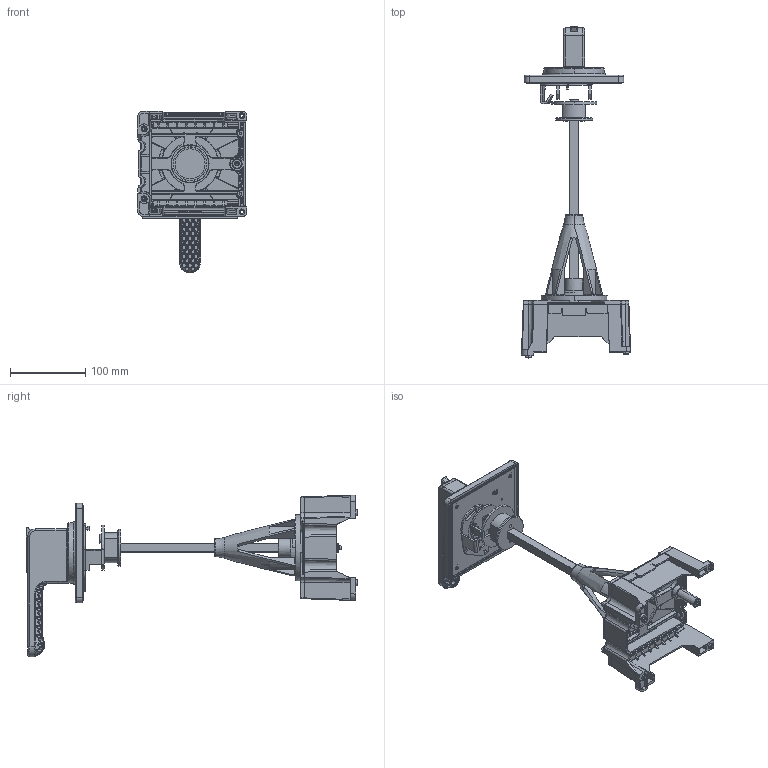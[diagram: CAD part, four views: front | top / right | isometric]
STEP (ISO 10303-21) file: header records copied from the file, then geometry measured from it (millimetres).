
FILE_DESCRIPTION(/* description */ (''),/* implementation_level */ '2;1');
FILE_NAME(/* name */ 'TFH80GP_3D DATA.stp',/* time_stamp */ '2018-06-05T13:24:59+09:00',/* author */ (''),/* organization */ (''),/* preprocessor_version */ 'ST-DEVELOPER v15',/* originating_system */ 'SIEMENS PLM Software NX 9.0',/* authorisation */ '');
FILE_SCHEMA (('AP203_CONFIGURATION_CONTROLLED_3D_DESIGN_OF_MECHANICAL_PARTS_AND_ASSEMBLIES_MIM_LF { 1 0 10303 403 2 1 2}'));
Products named in the file (28): M4_L12_PH_SCREW; D4_ASSY2_SPRING_WASHER; U8_HM_HANDLE_EX_INSERT_COVER; U6_HM_FRAME; U6_HM_FRAME_COVER; U8_HM_ROLL_B_RING; U6_HM_TRIP_BUTTON; M4_L12_HEX_SOCKET_BOLT; M4_HEX_NUT; U8_HM_HANDLE; U8_HM_COVER_PLATE; U8_HM_ON_OFF_U_LEVER; U8_HM_DOOR_LOCK_PLATE; U8_HM_SEALING; U8_HM_KEY_LOCK_CAP; U8_HM_ON_OFF_LABEL; U8_HM_ROLL_A_RING; U8_HM_ON_OFF_D_LEVER; U8_HM_LONG_SHAFT306248; U8_HM_STOP_BOLT; M4_L30_PH_TAPPING_SCREW; U8_HM_BAR_SUPPORTER; M4_L12_SW_PH_SCREW_ASM; U6_HM_TFH_FRAME_ASSY_ASM; U8_HM_HANDLE_COVER_ASM; U8_HM_HANDLE_ASSY_ASM; U8_HM_LONG_SHAFT_ASSY_ASM; u6_tfh_63gp_asm_stp
Assembly tree (31 placements, depth 4):
  u6_tfh_63gp_asm_stp
    U8_HM_BAR_SUPPORTER
    U8_HM_LONG_SHAFT_ASSY_ASM
      M4_L30_PH_TAPPING_SCREW
      U8_HM_STOP_BOLT  x2
      U8_HM_LONG_SHAFT306248
      U8_HM_ON_OFF_D_LEVER
      U8_HM_ROLL_A_RING
    U8_HM_HANDLE_ASSY_ASM
      U8_HM_ON_OFF_LABEL
      U8_HM_KEY_LOCK_CAP
      U8_HM_SEALING
      U8_HM_DOOR_LOCK_PLATE
      U8_HM_ON_OFF_U_LEVER
      U8_HM_COVER_PLATE
      U8_HM_HANDLE_COVER_ASM
        U8_HM_HANDLE_EX_INSERT_COVER
      U8_HM_HANDLE
    U6_HM_TFH_FRAME_ASSY_ASM
      M4_HEX_NUT
      M4_L12_HEX_SOCKET_BOLT
      M4_L12_SW_PH_SCREW_ASM  x4
        D4_ASSY2_SPRING_WASHER
        M4_L12_PH_SCREW
      U6_HM_TRIP_BUTTON
      U8_HM_ROLL_B_RING
      U6_HM_FRAME_COVER
      U6_HM_FRAME
Bounding box: 145.2 x 441.35 x 215 mm (x, y, z)
Volume: 605547.6 mm3; surface area: 452607.5 mm2
Topology: 29 solids, 29 shells, 4570 faces, 11371 edges, 7015 vertices
Faces by surface type: plane 1613, cylinder 1382, torus 515, bspline 474, cone 249, sphere 216, extrusion 121
Full cylindrical faces by diameter (mm): 49.5 x1
Entity records: 177864 total; most frequent: CARTESIAN_POINT 72241, ORIENTED_EDGE 21946, DIRECTION 20985, EDGE_CURVE 10973, AXIS2_PLACEMENT_3D 7880, VERTEX_POINT 6759, VECTOR 5225, LINE 5104
